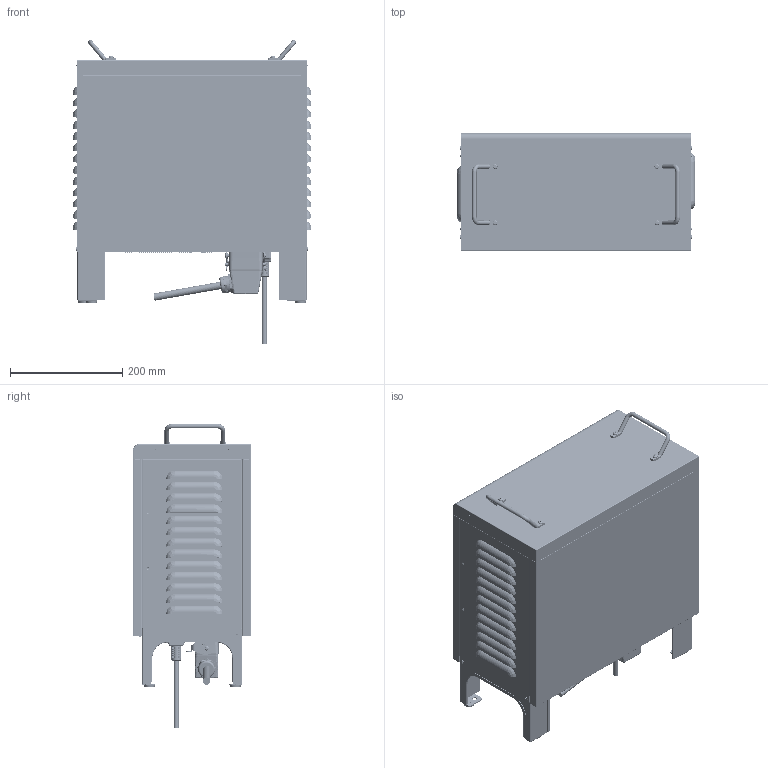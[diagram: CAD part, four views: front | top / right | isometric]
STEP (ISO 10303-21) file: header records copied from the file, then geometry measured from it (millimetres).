
FILE_DESCRIPTION((''),'2;1');
FILE_NAME('TMAA_CONTROL_BOX_OMRON','2018-09-18T',('bluedevils'),(''),'PRO/ENGINEER BY PARAMETRIC TECHNOLOGY CORPORATION, 2015240','PRO/ENGINEER BY PARAMETRIC TECHNOLOGY CORPORATION, 2015240','');
FILE_SCHEMA(('CONFIG_CONTROL_DESIGN'));
Products named in the file (1): TMAA_CONTROL_BOX_OMRON
Bounding box: 424 x 210.1 x 541.17 mm (x, y, z)
Volume: 1472815.5 mm3; surface area: 2072311.7 mm2
Topology: 1 solids, 8 shells, 8741 faces, 22812 edges, 14691 vertices
Faces by surface type: plane 4295, cylinder 2877, cone 760, bspline 335, torus 335, sphere 89, extrusion 46, revolution 4
Entity records: 336578 total; most frequent: CARTESIAN_POINT 119349, ORIENTED_EDGE 45578, DIRECTION 44530, EDGE_CURVE 22789, AXIS2_PLACEMENT_3D 15563, VERTEX_POINT 14691, VECTOR 13400, LINE 13354
